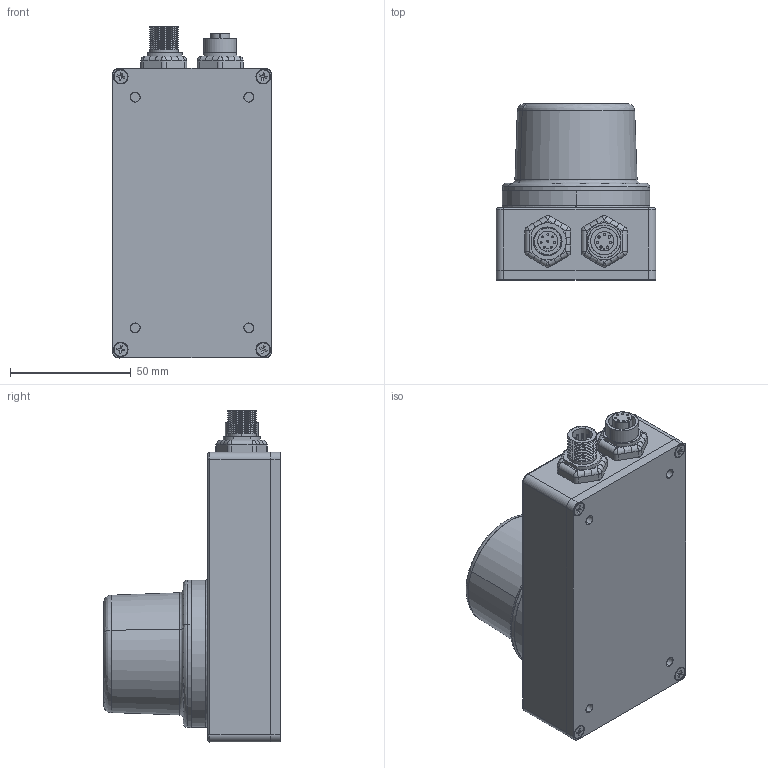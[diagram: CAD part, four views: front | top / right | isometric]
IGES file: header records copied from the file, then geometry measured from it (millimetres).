
Start section: SolidWorks IGES file using analytic representation for surfaces
Global section: file name: C:\Program Files\SolidWorks\DVT\Customer Models\IGES\Legend XE.IGS; native system: SolidWorks 2005 by SolidWorks Corporation; preprocessor: SolidWorks 2005 by SolidWorks Corporation; author: George Deveau; date: 050106.113300; units: millimetre
Bounding box: 66 x 73.19 x 137.49 mm (x, y, z)
Surface area: 37576.9 mm2 (no closed solid volume)
Topology: 0 solids, 0 shells, 317 faces, 2789 edges, 2777 vertices
Faces by surface type: revolution 187, bspline 130
